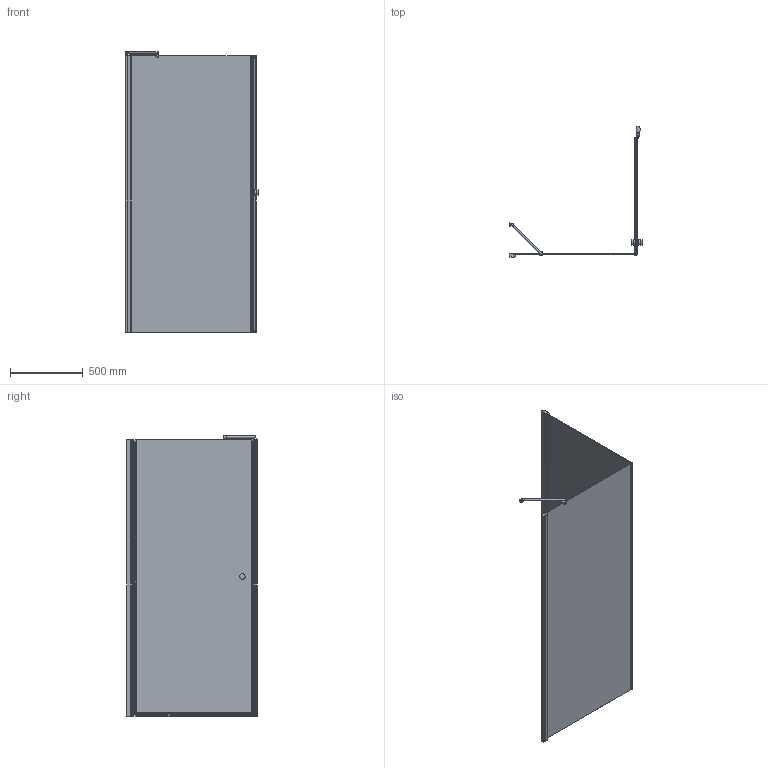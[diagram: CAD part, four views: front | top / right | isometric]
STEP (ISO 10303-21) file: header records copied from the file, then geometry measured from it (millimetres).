
FILE_DESCRIPTION(/* description */ (''),/* implementation_level */ '2;1');
FILE_NAME(/* name */ 'E:\Работа\Сергей\Душевые кабинки\! Работа\!!!!\LUX SQUARE GK-601\LUX SQUARE GK-601 правая модель\LUX SQUARE GK-601 ПРАВАЯ-3D.stp',/* time_stamp */ '2018-02-08T20:03:11+03:00',/* author */ ('PC'),/* organization */ (''),/* preprocessor_version */ 'ST-DEVELOPER v15.2',/* originating_system */ 'Autodesk Inventor 2014',/* authorisation */ '');
FILE_SCHEMA (('AUTOMOTIVE_DESIGN { 1 0 10303 214 3 1 1 }'));
Length unit declared in the file: millimetre
Products named in the file (1): LUX SQUARE GK-601 ПРАВАЯ-3D
Bounding box: 917.05 x 898.62 x 1935.75 mm (x, y, z)
Volume: 24210485.6 mm3; surface area: 7286582.4 mm2
Topology: 5 solids, 5 shells, 354 faces, 1014 edges, 667 vertices
Faces by surface type: plane 213, cylinder 127, cone 5, sphere 4, torus 3, bspline 2
Full cylindrical faces by diameter (mm): 5 x1, 7.8 x1, 15 x1, 19 x1, 20 x2, 26 x1, 38 x4
Entity records: 12102 total; most frequent: CARTESIAN_POINT 2285, ORIENTED_EDGE 1978, DIRECTION 1975, EDGE_CURVE 989, VERTEX_POINT 659, AXIS2_PLACEMENT_3D 659, LINE 657, VECTOR 657
